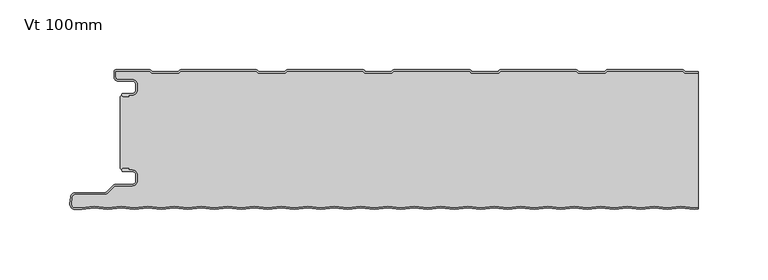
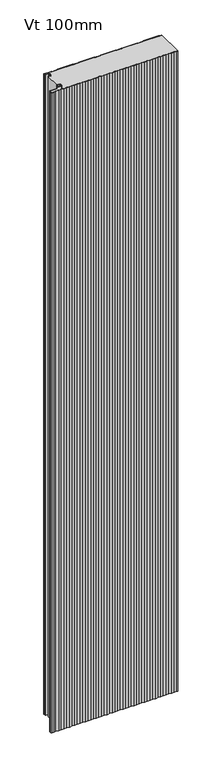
"""IFC4 building model written with IfcOpenShell, lengths in millimetres: plate geometry, KIP-MEX-KSS-1067-R19-CP-Vt-MR_SL : Vt 100mm."""

from ifc_helpers import new_model, si_unit, point, frame, frame_2d, origin, origin_with_axes, place, context, project, spatial, polyline, circle_curve, trimmed, segment, composite_curve, outline, extrude, source, transform, mapped, element, save
from ifc_brep_helpers import plane_surface, cylinder_surface, revolved_surface, advanced_brep


def vt_100mm_efa87503(model_context):
    return source(origin(), model_context, "Body", "SolidModel", [
        advanced_brep(
        [(-204.468691, -17.0015159, 2400.0), (-205.4686883, -18.0015191, 2400.0), (-204.468691, -19.0015105, 2400.0), (-200.4684874, -19.0015105, 2400.0), (-200.4684874, -18.0015159, 2400.0), (-197.7762776, -18.0015159, 2400.0), (-194.4762819, -14.7015202, 2400.0), (-194.4762819, -10.301529, 2400.0), (-197.7762774, -7.0015335, 2400.0), (-208.1962563, -7.0015335, 2400.0), (-209.9662505, -5.2315393, 2400.0), (-209.9662505, -0.9999916, 2400.0), (-185.4659738, -0.9999916, 2400.0), (-184.0803312, -2.2002307, 2400.0), (-164.7051649, -2.2002307, 2400.0), (-163.319532, -1.0, 2400.0), (-109.2661166, -1.0, 2400.0), (-107.8804836, -2.2002307, 2400.0), (-88.5053173, -2.2002307, 2400.0), (-87.1196844, -1.0, 2400.0), (-33.066269, -1.0, 2400.0), (-31.680636, -2.2002307, 2400.0), (-12.3054697, -2.2002307, 2400.0), (-10.9198368, -1.0, 2400.0), (43.1335786, -1.0, 2400.0), (44.5192116, -2.2002307, 2400.0), (63.8943779, -2.2002307, 2400.0), (65.2800108, -1.0, 2400.0), (119.3334262, -1.0, 2400.0), (120.7190592, -2.2002307, 2400.0), (140.0942255, -2.2002307, 2400.0), (141.4798584, -1.0, 2400.0), (195.5332738, -1.0, 2400.0), (196.9189068, -2.2002307, 2400.0), (206.4999998, -2.2002307, 2400.0), (206.4999998, -1.2002307, 2400.0), (197.2917872, -1.2002307, 2400.0), (196.3007396, -0.3417885, 2400.0), (195.3841227, 0.0, 2400.0), (141.6290096, 0.0, 2400.0), (140.7123927, -0.3417885, 2400.0), (139.7213451, -1.2002307, 2400.0), (121.0919396, -1.2002307, 2400.0), (120.100892, -0.3417885, 2400.0), (119.1842751, 0.0, 2400.0), (65.429162, 0.0, 2400.0), (64.5125451, -0.3417885, 2400.0), (63.5214975, -1.2002307, 2400.0), (44.892092, -1.2002307, 2400.0), (43.9010444, -0.3417885, 2400.0), (42.9844275, 0.0, 2400.0), (-10.7706856, 0.0, 2400.0), (-11.6873025, -0.3417885, 2400.0), (-12.6783501, -1.2002307, 2400.0), (-31.3077556, -1.2002307, 2400.0), (-32.2988032, -0.3417885, 2400.0), (-33.2154201, 0.0, 2400.0), (-86.9705332, 0.0, 2400.0), (-87.8871501, -0.3417885, 2400.0), (-88.8781977, -1.2002307, 2400.0), (-107.5076032, -1.2002307, 2400.0), (-108.4986508, -0.3417885, 2400.0), (-109.4152677, 0.0, 2400.0), (-163.1703808, 0.0, 2400.0), (-164.0869977, -0.3417885, 2400.0), (-165.0780453, -1.2002307, 2400.0), (-183.7074508, -1.2002307, 2400.0), (-184.6984984, -0.3417885, 2400.0), (-185.6152067, 0.0, 2400.0), (-209.5662543, 8.4e-06, 2400.0), (-210.9662505, -1.3999878, 2400.0), (-210.9662505, -5.2315393, 2400.0), (-208.1962563, -8.0015335, 2400.0), (-197.7762774, -8.0015335, 2400.0), (-195.4762819, -10.301529, 2400.0), (-195.4762819, -14.7015202, 2400.0), (-197.7762776, -17.0015159, 2400.0), (-204.468691, -17.0015159, 0.0), (-197.7762776, -17.0015159, 0.0), (-195.4762819, -14.7015202, 0.0), (-195.4762819, -10.301529, 0.0), (-197.7762774, -8.0015335, 0.0), (-208.1962563, -8.0015335, 0.0), (-210.9662505, -5.2315393, 0.0), (-210.9662505, -1.3999878, 0.0), (-209.5662543, 8.4e-06, 0.0), (-185.6151153, 8.4e-06, 0.0), (-184.6984984, -0.3417885, 0.0), (-183.7074508, -1.2002307, 0.0), (-165.0780453, -1.2002307, 0.0), (-164.0869977, -0.3417885, 0.0), (-163.1703808, 0.0, 0.0), (-109.4152677, 0.0, 0.0), (-108.4986508, -0.3417885, 0.0), (-107.5076032, -1.2002307, 0.0), (-88.8781977, -1.2002307, 0.0), (-87.8871501, -0.3417885, 0.0), (-86.9705332, 0.0, 0.0), (-33.2154201, 0.0, 0.0), (-32.2988032, -0.3417885, 0.0), (-31.3077556, -1.2002307, 0.0), (-12.6783501, -1.2002307, 0.0), (-11.6873025, -0.3417885, 0.0), (-10.7706856, 0.0, 0.0), (42.9844275, 0.0, 0.0), (43.9010444, -0.3417885, 0.0), (44.892092, -1.2002307, 0.0), (63.5214975, -1.2002307, 0.0), (64.5125451, -0.3417885, 0.0), (65.429162, 0.0, 0.0), (119.1842751, 0.0, 0.0), (120.100892, -0.3417885, 0.0), (121.0919396, -1.2002307, 0.0), (139.7213451, -1.2002307, 0.0), (140.7123927, -0.3417885, 0.0), (141.6290096, 0.0, 0.0), (195.3841227, 0.0, 0.0), (196.3007396, -0.3417885, 0.0), (197.2917872, -1.2002307, 0.0), (206.4999998, -1.2002307, 0.0), (206.4999998, -2.2002307, 0.0), (196.9189068, -2.2002307, 0.0), (195.5332738, -1.0, 0.0), (141.4798584, -1.0, 0.0), (140.0942255, -2.2002307, 0.0), (120.7190592, -2.2002307, 0.0), (119.3334262, -1.0, 0.0), (65.2800108, -1.0, 0.0), (63.8943779, -2.2002307, 0.0), (44.5192116, -2.2002307, 0.0), (43.1335786, -1.0, 0.0), (-10.9198368, -1.0, 0.0), (-12.3054697, -2.2002307, 0.0), (-31.680636, -2.2002307, 0.0), (-33.066269, -1.0, 0.0), (-87.1196844, -1.0, 0.0), (-88.5053173, -2.2002307, 0.0), (-107.8804836, -2.2002307, 0.0), (-109.2661166, -1.0, 0.0), (-163.319532, -1.0, 0.0), (-164.7051649, -2.2002307, 0.0), (-184.0803312, -2.2002307, 0.0), (-185.4659738, -0.9999916, 0.0), (-209.9662505, -0.9999916, 0.0), (-209.9662505, -5.2315393, 0.0), (-208.1962563, -7.0015335, 0.0), (-197.7762774, -7.0015335, 0.0), (-194.4762819, -10.301529, 0.0), (-194.4762819, -14.7015202, 0.0), (-197.7762776, -18.0015159, 0.0), (-200.4684874, -18.0015159, 0.0), (-200.4684874, -19.0015105, 0.0), (-204.468691, -19.0015105, 0.0), (-205.4686882, -18.0015192, 0.0)],
        [
            (0, 1, circle_curve(frame((-204.468691, -18.0015132, 2400.0), z_axis=(0.0, 0.0, 1.0), x_axis=(1.0, 0.0, 0.0)), 0.9999973)),
            (1, 2, circle_curve(frame((-204.468691, -18.0015133, 2400.0), z_axis=(0.0, 0.0, 1.0), x_axis=(1.0, 0.0, 0.0)), 0.9999972)),
            (2, 3),
            (3, 4),
            (4, 5),
            (5, 6, circle_curve(frame((-197.7762776, -14.7015202, 2400.0), z_axis=(0.0, 0.0, 1.0), x_axis=(1.0, 0.0, 0.0)), 3.2999957)),
            (6, 7),
            (7, 8, circle_curve(frame((-197.7762774, -10.301529, 2400.0), z_axis=(0.0, 0.0, 1.0), x_axis=(1.0, 0.0, 0.0)), 3.2999955)),
            (8, 9),
            (9, 10, circle_curve(frame((-208.1962563, -5.2315393, 2400.0), z_axis=(0.0, 0.0, -1.0), x_axis=(1.0, 0.0, 0.0)), 1.7699942)),
            (10, 11),
            (11, 12),
            (12, 13),
            (13, 14),
            (14, 15),
            (15, 16),
            (16, 17),
            (17, 18),
            (18, 19),
            (19, 20),
            (20, 21),
            (21, 22),
            (22, 23),
            (23, 24),
            (24, 25),
            (25, 26),
            (26, 27),
            (27, 28),
            (28, 29),
            (29, 30),
            (30, 31),
            (31, 32),
            (32, 33),
            (33, 34),
            (34, 35),
            (35, 36),
            (36, 37),
            (37, 38, circle_curve(frame((195.3841227, -1.3999972, 2400.0), z_axis=(0.0, 0.0, 1.0), x_axis=(1.0, 0.0, 0.0)), 1.3999972)),
            (38, 39),
            (39, 40, circle_curve(frame((141.6290096, -1.3999972, 2400.0), z_axis=(0.0, 0.0, 1.0), x_axis=(1.0, 0.0, 0.0)), 1.3999972)),
            (40, 41),
            (41, 42),
            (42, 43),
            (43, 44, circle_curve(frame((119.1842751, -1.3999972, 2400.0), z_axis=(0.0, 0.0, 1.0), x_axis=(1.0, 0.0, 0.0)), 1.3999972)),
            (44, 45),
            (45, 46, circle_curve(frame((65.429162, -1.3999972, 2400.0), z_axis=(0.0, 0.0, 1.0), x_axis=(1.0, 0.0, 0.0)), 1.3999972)),
            (46, 47),
            (47, 48),
            (48, 49),
            (49, 50, circle_curve(frame((42.9844275, -1.3999972, 2400.0), z_axis=(0.0, 0.0, 1.0), x_axis=(1.0, 0.0, 0.0)), 1.3999972)),
            (50, 51),
            (51, 52, circle_curve(frame((-10.7706856, -1.3999972, 2400.0), z_axis=(0.0, 0.0, 1.0), x_axis=(1.0, 0.0, 0.0)), 1.3999972)),
            (52, 53),
            (53, 54),
            (54, 55),
            (55, 56, circle_curve(frame((-33.2154201, -1.3999972, 2400.0), z_axis=(0.0, 0.0, 1.0), x_axis=(1.0, 0.0, 0.0)), 1.3999972)),
            (56, 57),
            (57, 58, circle_curve(frame((-86.9705332, -1.3999972, 2400.0), z_axis=(0.0, 0.0, 1.0), x_axis=(1.0, 0.0, 0.0)), 1.3999972)),
            (58, 59),
            (59, 60),
            (60, 61),
            (61, 62, circle_curve(frame((-109.4152677, -1.3999972, 2400.0), z_axis=(0.0, 0.0, 1.0), x_axis=(1.0, 0.0, 0.0)), 1.3999972)),
            (62, 63),
            (63, 64, circle_curve(frame((-163.1703808, -1.3999972, 2400.0), z_axis=(0.0, 0.0, 1.0), x_axis=(1.0, 0.0, 0.0)), 1.3999972)),
            (64, 65),
            (65, 66),
            (66, 67),
            (67, 68, circle_curve(frame((-185.6151153, -1.3999972, 2400.0), z_axis=(0.0, 0.0, 1.0), x_axis=(1.0, 0.0, 0.0)), 1.3999972)),
            (68, 69),
            (69, 70, circle_curve(frame((-209.5662543, -1.3999878, 2400.0), z_axis=(0.0, 0.0, 1.0), x_axis=(1.0, 0.0, 0.0)), 1.3999962)),
            (70, 71),
            (71, 72, circle_curve(frame((-208.1962563, -5.2315393, 2400.0), z_axis=(0.0, 0.0, 1.0), x_axis=(1.0, 0.0, 0.0)), 2.7699942)),
            (72, 73),
            (73, 74, circle_curve(frame((-197.7762774, -10.301529, 2400.0), z_axis=(0.0, 0.0, -1.0), x_axis=(1.0, 0.0, 0.0)), 2.2999955)),
            (74, 75),
            (75, 76, circle_curve(frame((-197.7762776, -14.7015202, 2400.0), z_axis=(0.0, 0.0, -1.0), x_axis=(1.0, 0.0, 0.0)), 2.2999957)),
            (76, 0),
            (77, 78),
            (78, 79, circle_curve(frame((-197.7762776, -14.7015202, 0.0), z_axis=(0.0, 0.0, 1.0), x_axis=(1.0, 0.0, 0.0)), 2.2999957)),
            (79, 80),
            (80, 81, circle_curve(frame((-197.7762774, -10.301529, 0.0), z_axis=(0.0, 0.0, 1.0), x_axis=(1.0, 0.0, 0.0)), 2.2999955)),
            (81, 82),
            (82, 83, circle_curve(frame((-208.1962563, -5.2315393, 0.0), z_axis=(0.0, 0.0, -1.0), x_axis=(1.0, 0.0, 0.0)), 2.7699942)),
            (83, 84),
            (84, 85, circle_curve(frame((-209.5662543, -1.3999878, 0.0), z_axis=(0.0, 0.0, -1.0), x_axis=(1.0, 0.0, 0.0)), 1.3999962)),
            (85, 86),
            (86, 87, circle_curve(frame((-185.6151153, -1.3999972, 0.0), z_axis=(0.0, 0.0, -1.0), x_axis=(1.0, 0.0, 0.0)), 1.3999972)),
            (87, 88),
            (88, 89),
            (89, 90),
            (90, 91, circle_curve(frame((-163.1703808, -1.3999972, 0.0), z_axis=(0.0, 0.0, -1.0), x_axis=(1.0, 0.0, 0.0)), 1.3999972)),
            (91, 92),
            (92, 93, circle_curve(frame((-109.4152677, -1.3999972, 0.0), z_axis=(0.0, 0.0, -1.0), x_axis=(1.0, 0.0, 0.0)), 1.3999972)),
            (93, 94),
            (94, 95),
            (95, 96),
            (96, 97, circle_curve(frame((-86.9705332, -1.3999972, 0.0), z_axis=(0.0, 0.0, -1.0), x_axis=(1.0, 0.0, 0.0)), 1.3999972)),
            (97, 98),
            (98, 99, circle_curve(frame((-33.2154201, -1.3999972, 0.0), z_axis=(0.0, 0.0, -1.0), x_axis=(1.0, 0.0, 0.0)), 1.3999972)),
            (99, 100),
            (100, 101),
            (101, 102),
            (102, 103, circle_curve(frame((-10.7706856, -1.3999972, 0.0), z_axis=(0.0, 0.0, -1.0), x_axis=(1.0, 0.0, 0.0)), 1.3999972)),
            (103, 104),
            (104, 105, circle_curve(frame((42.9844275, -1.3999972, 0.0), z_axis=(0.0, 0.0, -1.0), x_axis=(1.0, 0.0, 0.0)), 1.3999972)),
            (105, 106),
            (106, 107),
            (107, 108),
            (108, 109, circle_curve(frame((65.429162, -1.3999972, 0.0), z_axis=(0.0, 0.0, -1.0), x_axis=(1.0, 0.0, 0.0)), 1.3999972)),
            (109, 110),
            (110, 111, circle_curve(frame((119.1842751, -1.3999972, 0.0), z_axis=(0.0, 0.0, -1.0), x_axis=(1.0, 0.0, 0.0)), 1.3999972)),
            (111, 112),
            (112, 113),
            (113, 114),
            (114, 115, circle_curve(frame((141.6290096, -1.3999972, 0.0), z_axis=(0.0, 0.0, -1.0), x_axis=(1.0, 0.0, 0.0)), 1.3999972)),
            (115, 116),
            (116, 117, circle_curve(frame((195.3841227, -1.3999972, 0.0), z_axis=(0.0, 0.0, -1.0), x_axis=(1.0, 0.0, 0.0)), 1.3999972)),
            (117, 118),
            (118, 119),
            (119, 120),
            (120, 121),
            (121, 122),
            (122, 123),
            (123, 124),
            (124, 125),
            (125, 126),
            (126, 127),
            (127, 128),
            (128, 129),
            (129, 130),
            (130, 131),
            (131, 132),
            (132, 133),
            (133, 134),
            (134, 135),
            (135, 136),
            (136, 137),
            (137, 138),
            (138, 139),
            (139, 140),
            (140, 141),
            (141, 142),
            (142, 143),
            (143, 144),
            (144, 145, circle_curve(frame((-208.1962563, -5.2315393, 0.0), z_axis=(0.0, 0.0, 1.0), x_axis=(1.0, 0.0, 0.0)), 1.7699942)),
            (145, 146),
            (146, 147, circle_curve(frame((-197.7762774, -10.301529, 0.0), z_axis=(0.0, 0.0, -1.0), x_axis=(1.0, 0.0, 0.0)), 3.2999955)),
            (147, 148),
            (148, 149, circle_curve(frame((-197.7762776, -14.7015202, 0.0), z_axis=(0.0, 0.0, -1.0), x_axis=(1.0, 0.0, 0.0)), 3.2999957)),
            (149, 150),
            (150, 151),
            (151, 152),
            (152, 153, circle_curve(frame((-204.468691, -18.0015133, 0.0), z_axis=(0.0, 0.0, -1.0), x_axis=(1.0, 0.0, 0.0)), 0.9999972)),
            (153, 77, circle_curve(frame((-204.468691, -18.0015132, 0.0), z_axis=(0.0, 0.0, -1.0), x_axis=(1.0, 0.0, 0.0)), 0.9999973)),
            (76, 78),
            (77, 0),
            (75, 79),
            (74, 80),
            (73, 81),
            (72, 82),
            (71, 83),
            (70, 84),
            (69, 85),
            (68, 86),
            (67, 87),
            (66, 88),
            (65, 89),
            (64, 90),
            (63, 91),
            (62, 92),
            (61, 93),
            (60, 94),
            (59, 95),
            (58, 96),
            (57, 97),
            (56, 98),
            (55, 99),
            (54, 100),
            (53, 101),
            (52, 102),
            (51, 103),
            (50, 104),
            (49, 105),
            (48, 106),
            (47, 107),
            (46, 108),
            (45, 109),
            (44, 110),
            (43, 111),
            (42, 112),
            (41, 113),
            (40, 114),
            (39, 115),
            (38, 116),
            (37, 117),
            (36, 118),
            (35, 119),
            (120, 34),
            (33, 121),
            (32, 122),
            (31, 123),
            (30, 124),
            (29, 125),
            (28, 126),
            (27, 127),
            (26, 128),
            (25, 129),
            (24, 130),
            (23, 131),
            (22, 132),
            (21, 133),
            (20, 134),
            (19, 135),
            (18, 136),
            (17, 137),
            (16, 138),
            (15, 139),
            (14, 140),
            (13, 141),
            (12, 142),
            (11, 143),
            (10, 144),
            (9, 145),
            (8, 146),
            (7, 147),
            (6, 148),
            (5, 149),
            (4, 150),
            (3, 151),
            (2, 152),
            (1, 153),
        ],
        [
            plane_surface(frame((326.9000002, 0.0, 2400.0), z_axis=(0.0, 0.0, 1.0), x_axis=(0.0, 1.0, 0.0))),
            plane_surface(frame((326.9000002, 0.0, 0.0), z_axis=(0.0, 0.0, -1.0), x_axis=(0.0, 1.0, 0.0))),
            plane_surface(frame((-204.468691, -17.0015159, 2400.0), z_axis=(0.0, 1.0, 0.0), x_axis=(0.0, 0.0, -1.0))),
            revolved_surface(polyline([(-195.47628189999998, -14.7015202, 0.0), (-195.47628189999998, -14.7015202, 2400.0)]), (-197.7762776, -14.7015202, 2400.0), (0.0, 0.0, -1.0)),
            plane_surface(frame((-195.4762819, -14.7015202, 2400.0), z_axis=(-1.0, 0.0, 0.0), x_axis=(0.0, 0.0, -1.0))),
            revolved_surface(polyline([(-195.4762819, -10.301529, 0.0), (-195.4762819, -10.301529, 2400.0)]), (-197.7762774, -10.301529, 2400.0), (0.0, 0.0, -1.0)),
            plane_surface(frame((-197.7762774, -8.0015335, 2400.0), z_axis=(0.0, -1.0, 0.0), x_axis=(0.0, 0.0, -1.0))),
            cylinder_surface(frame((-208.1962563, -5.2315393, 2400.0), z_axis=(0.0, 0.0, 1.0), x_axis=(1.0, 0.0, 0.0)), 2.7699942),
            plane_surface(frame((-210.9662505, -5.2315393, 2400.0), z_axis=(-1.0, 0.0, 0.0), x_axis=(0.0, 0.0, -1.0))),
            cylinder_surface(frame((-209.5662543, -1.3999878, 2400.0), z_axis=(0.0, 0.0, 1.0), x_axis=(1.0, 0.0, 0.0)), 1.3999962),
            plane_surface(frame((-209.5662543, 8.4e-06, 2400.0), z_axis=(0.0, 1.0, 0.0), x_axis=(0.0, 0.0, -1.0))),
            cylinder_surface(frame((-185.6151153, -1.3999972, 2400.0), z_axis=(0.0, 0.0, 1.0), x_axis=(1.0, 0.0, 0.0)), 1.3999972),
            plane_surface(frame((-184.6984984, -0.3417885, 2400.0), z_axis=(0.6547276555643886, 0.755864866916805, 0.0), x_axis=(0.0, 0.0, -1.0))),
            plane_surface(frame((-174.3927481, -1.2002307, 2400.0), z_axis=(0.0, 1.0, 0.0), x_axis=(0.0, 0.0, -1.0))),
            plane_surface(frame((-165.0780453, -1.2002307, 2400.0), z_axis=(-0.6547276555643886, 0.755864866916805, 0.0), x_axis=(0.0, 0.0, -1.0))),
            cylinder_surface(frame((-163.1703808, -1.3999972, 2400.0), z_axis=(0.0, 0.0, 1.0), x_axis=(1.0, 0.0, 0.0)), 1.3999972),
            plane_surface(frame((-163.1703808, 0.0, 2400.0), z_axis=(0.0, 1.0, 0.0), x_axis=(0.0, 0.0, -1.0))),
            cylinder_surface(frame((-109.4152677, -1.3999972, 2400.0), z_axis=(0.0, 0.0, 1.0), x_axis=(1.0, 0.0, 0.0)), 1.3999972),
            plane_surface(frame((-108.4986508, -0.3417885, 2400.0), z_axis=(0.6547276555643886, 0.755864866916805, 0.0), x_axis=(0.0, 0.0, -1.0))),
            plane_surface(frame((-98.1929005, -1.2002307, 2400.0), z_axis=(0.0, 1.0, 0.0), x_axis=(0.0, 0.0, -1.0))),
            plane_surface(frame((-88.8781977, -1.2002307, 2400.0), z_axis=(-0.6547276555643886, 0.755864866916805, 0.0), x_axis=(0.0, 0.0, -1.0))),
            cylinder_surface(frame((-86.9705332, -1.3999972, 2400.0), z_axis=(0.0, 0.0, 1.0), x_axis=(1.0, 0.0, 0.0)), 1.3999972),
            plane_surface(frame((-86.9705332, 0.0, 2400.0), z_axis=(0.0, 1.0, 0.0), x_axis=(0.0, 0.0, -1.0))),
            cylinder_surface(frame((-33.2154201, -1.3999972, 2400.0), z_axis=(0.0, 0.0, 1.0), x_axis=(1.0, 0.0, 0.0)), 1.3999972),
            plane_surface(frame((-32.2988032, -0.3417885, 2400.0), z_axis=(0.6547276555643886, 0.755864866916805, 0.0), x_axis=(0.0, 0.0, -1.0))),
            plane_surface(frame((-21.9930529, -1.2002307, 2400.0), z_axis=(0.0, 1.0, 0.0), x_axis=(0.0, 0.0, -1.0))),
            plane_surface(frame((-12.6783501, -1.2002307, 2400.0), z_axis=(-0.6547276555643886, 0.755864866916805, 0.0), x_axis=(0.0, 0.0, -1.0))),
            cylinder_surface(frame((-10.7706856, -1.3999972, 2400.0), z_axis=(0.0, 0.0, 1.0), x_axis=(1.0, 0.0, 0.0)), 1.3999972),
            plane_surface(frame((-10.7706856, 0.0, 2400.0), z_axis=(0.0, 1.0, 0.0), x_axis=(0.0, 0.0, -1.0))),
            cylinder_surface(frame((42.9844275, -1.3999972, 2400.0), z_axis=(0.0, 0.0, 1.0), x_axis=(1.0, 0.0, 0.0)), 1.3999972),
            plane_surface(frame((43.9010444, -0.3417885, 2400.0), z_axis=(0.6547276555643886, 0.755864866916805, 0.0), x_axis=(0.0, 0.0, -1.0))),
            plane_surface(frame((54.2067947, -1.2002307, 2400.0), z_axis=(0.0, 1.0, 0.0), x_axis=(0.0, 0.0, -1.0))),
            plane_surface(frame((63.5214975, -1.2002307, 2400.0), z_axis=(-0.6547276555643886, 0.755864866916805, 0.0), x_axis=(0.0, 0.0, -1.0))),
            cylinder_surface(frame((65.429162, -1.3999972, 2400.0), z_axis=(0.0, 0.0, 1.0), x_axis=(1.0, 0.0, 0.0)), 1.3999972),
            plane_surface(frame((65.429162, 0.0, 2400.0), z_axis=(0.0, 1.0, 0.0), x_axis=(0.0, 0.0, -1.0))),
            cylinder_surface(frame((119.1842751, -1.3999972, 2400.0), z_axis=(0.0, 0.0, 1.0), x_axis=(1.0, 0.0, 0.0)), 1.3999972),
            plane_surface(frame((120.100892, -0.3417885, 2400.0), z_axis=(0.6547276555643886, 0.755864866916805, 0.0), x_axis=(0.0, 0.0, -1.0))),
            plane_surface(frame((130.4066423, -1.2002307, 2400.0), z_axis=(0.0, 1.0, 0.0), x_axis=(0.0, 0.0, -1.0))),
            plane_surface(frame((139.7213451, -1.2002307, 2400.0), z_axis=(-0.6547276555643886, 0.755864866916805, 0.0), x_axis=(0.0, 0.0, -1.0))),
            cylinder_surface(frame((141.6290096, -1.3999972, 2400.0), z_axis=(0.0, 0.0, 1.0), x_axis=(1.0, 0.0, 0.0)), 1.3999972),
            plane_surface(frame((141.6290096, 0.0, 2400.0), z_axis=(0.0, 1.0, 0.0), x_axis=(0.0, 0.0, -1.0))),
            cylinder_surface(frame((195.3841227, -1.3999972, 2400.0), z_axis=(0.0, 0.0, 1.0), x_axis=(1.0, 0.0, 0.0)), 1.3999972),
            plane_surface(frame((196.3007396, -0.3417885, 2400.0), z_axis=(0.6547276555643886, 0.755864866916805, 0.0), x_axis=(0.0, 0.0, -1.0))),
            plane_surface(frame((206.6064899, -1.2002307, 2400.0), z_axis=(0.0, 1.0, 0.0), x_axis=(0.0, 0.0, -1.0))),
            plane_surface(frame((216.2940731, -2.2002307, 2400.0), z_axis=(0.0, -1.0, 0.0), x_axis=(0.0, 0.0, -1.0))),
            plane_surface(frame((196.9189068, -2.2002307, 2400.0), z_axis=(-0.6547276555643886, -0.755864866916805, 0.0), x_axis=(0.0, 0.0, -1.0))),
            plane_surface(frame((195.5332738, -1.0, 2400.0), z_axis=(0.0, -1.0, 0.0), x_axis=(0.0, 0.0, -1.0))),
            plane_surface(frame((141.4798584, -1.0, 2400.0), z_axis=(0.6547276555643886, -0.755864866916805, 0.0), x_axis=(0.0, 0.0, -1.0))),
            plane_surface(frame((140.0942255, -2.2002307, 2400.0), z_axis=(0.0, -1.0, 0.0), x_axis=(0.0, 0.0, -1.0))),
            plane_surface(frame((120.7190592, -2.2002307, 2400.0), z_axis=(-0.6547276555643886, -0.755864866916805, 0.0), x_axis=(0.0, 0.0, -1.0))),
            plane_surface(frame((119.3334262, -1.0, 2400.0), z_axis=(0.0, -1.0, 0.0), x_axis=(0.0, 0.0, -1.0))),
            plane_surface(frame((65.2800108, -1.0, 2400.0), z_axis=(0.6547276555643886, -0.755864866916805, 0.0), x_axis=(0.0, 0.0, -1.0))),
            plane_surface(frame((63.8943779, -2.2002307, 2400.0), z_axis=(0.0, -1.0, 0.0), x_axis=(0.0, 0.0, -1.0))),
            plane_surface(frame((44.5192116, -2.2002307, 2400.0), z_axis=(-0.6547276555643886, -0.755864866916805, 0.0), x_axis=(0.0, 0.0, -1.0))),
            plane_surface(frame((43.1335786, -1.0, 2400.0), z_axis=(0.0, -1.0, 0.0), x_axis=(0.0, 0.0, -1.0))),
            plane_surface(frame((-10.9198368, -1.0, 2400.0), z_axis=(0.6547276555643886, -0.755864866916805, 0.0), x_axis=(0.0, 0.0, -1.0))),
            plane_surface(frame((-12.3054697, -2.2002307, 2400.0), z_axis=(0.0, -1.0, 0.0), x_axis=(0.0, 0.0, -1.0))),
            plane_surface(frame((-31.680636, -2.2002307, 2400.0), z_axis=(-0.6547276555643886, -0.755864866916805, 0.0), x_axis=(0.0, 0.0, -1.0))),
            plane_surface(frame((-33.066269, -1.0, 2400.0), z_axis=(0.0, -1.0, 0.0), x_axis=(0.0, 0.0, -1.0))),
            plane_surface(frame((-87.1196844, -1.0, 2400.0), z_axis=(0.6547276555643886, -0.755864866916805, 0.0), x_axis=(0.0, 0.0, -1.0))),
            plane_surface(frame((-88.5053173, -2.2002307, 2400.0), z_axis=(0.0, -1.0, 0.0), x_axis=(0.0, 0.0, -1.0))),
            plane_surface(frame((-107.8804836, -2.2002307, 2400.0), z_axis=(-0.6547276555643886, -0.755864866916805, 0.0), x_axis=(0.0, 0.0, -1.0))),
            plane_surface(frame((-109.2661166, -1.0, 2400.0), z_axis=(0.0, -1.0, 0.0), x_axis=(0.0, 0.0, -1.0))),
            plane_surface(frame((-163.319532, -1.0, 2400.0), z_axis=(0.6547276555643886, -0.755864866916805, 0.0), x_axis=(0.0, 0.0, -1.0))),
            plane_surface(frame((-164.7051649, -2.2002307, 2400.0), z_axis=(0.0, -1.0, 0.0), x_axis=(0.0, 0.0, -1.0))),
            plane_surface(frame((-184.0803312, -2.2002307, 2400.0), z_axis=(-0.6547276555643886, -0.755864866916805, 0.0), x_axis=(0.0, 0.0, -1.0))),
            plane_surface(frame((-185.4659738, -0.9999916, 2400.0), z_axis=(0.0, -1.0, 0.0), x_axis=(0.0, 0.0, -1.0))),
            plane_surface(frame((-209.9662505, -0.9999916, 2400.0), z_axis=(1.0, 0.0, 0.0), x_axis=(0.0, 0.0, -1.0))),
            revolved_surface(polyline([(-206.42626209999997, -5.2315393, 0.0), (-206.42626209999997, -5.2315393, 2400.0)]), (-208.1962563, -5.2315393, 2400.0), (0.0, 0.0, -1.0)),
            plane_surface(frame((-208.1962563, -7.0015335, 2400.0), z_axis=(0.0, 1.0, 0.0), x_axis=(0.0, 0.0, -1.0))),
            cylinder_surface(frame((-197.7762774, -10.301529, 2400.0), z_axis=(0.0, 0.0, 1.0), x_axis=(1.0, 0.0, 0.0)), 3.2999955),
            plane_surface(frame((-194.4762819, -10.301529, 2400.0), z_axis=(1.0, 0.0, 0.0), x_axis=(0.0, 0.0, -1.0))),
            cylinder_surface(frame((-197.7762776, -14.7015202, 2400.0), z_axis=(0.0, 0.0, 1.0), x_axis=(1.0, 0.0, 0.0)), 3.2999957),
            plane_surface(frame((-197.7762776, -18.0015159, 2400.0), z_axis=(0.0, -1.0, 0.0), x_axis=(0.0, 0.0, -1.0))),
            plane_surface(frame((-200.4684874, -18.0015159, 2400.0), z_axis=(1.0, 0.0, 0.0), x_axis=(0.0, 0.0, -1.0))),
            plane_surface(frame((-200.4684874, -19.0015105, 2400.0), z_axis=(0.0, -1.0, 0.0), x_axis=(0.0, 0.0, -1.0))),
            cylinder_surface(frame((-204.468691, -18.0015133, 2400.0), z_axis=(0.0, 0.0, 1.0), x_axis=(1.0, 0.0, 0.0)), 0.9999972),
            cylinder_surface(frame((-204.468691, -18.0015132, 2400.0), z_axis=(0.0, 0.0, 1.0), x_axis=(1.0, 0.0, 0.0)), 0.9999973),
            plane_surface(frame((206.4999998, -110.0, 2400.0), z_axis=(1.0, 0.0, 0.0), x_axis=(0.0, 0.0, -1.0))),
        ],
        [
            (0, [[1, 2, 3, 4, 5, 6, 7, 8, 9, 10, 11, 12, 13, 14, 15, 16, 17, 18, 19, 20, 21, 22, 23, 24, 25, 26, 27, 28, 29, 30, 31, 32, 33, 34, 35, 36, 37, 38, 39, 40, 41, 42, 43, 44, 45, 46, 47, 48, 49, 50, 51, 52, 53, 54, 55, 56, 57, 58, 59, 60, 61, 62, 63, 64, 65, 66, 67, 68, 69, 70, 71, 72, 73, 74, 75, 76, 77]]),
            (1, [[78, 79, 80, 81, 82, 83, 84, 85, 86, 87, 88, 89, 90, 91, 92, 93, 94, 95, 96, 97, 98, 99, 100, 101, 102, 103, 104, 105, 106, 107, 108, 109, 110, 111, 112, 113, 114, 115, 116, 117, 118, 119, 120, 121, 122, 123, 124, 125, 126, 127, 128, 129, 130, 131, 132, 133, 134, 135, 136, 137, 138, 139, 140, 141, 142, 143, 144, 145, 146, 147, 148, 149, 150, 151, 152, 153, 154]]),
            (2, [[155, -78, 156, -77]]),
            (3, [[157, -79, -155, -76]]),
            (4, [[158, -80, -157, -75]]),
            (5, [[159, -81, -158, -74]]),
            (6, [[160, -82, -159, -73]]),
            (7, [[161, -83, -160, -72]]),
            (8, [[162, -84, -161, -71]]),
            (9, [[163, -85, -162, -70]]),
            (10, [[164, -86, -163, -69]]),
            (11, [[165, -87, -164, -68]]),
            (12, [[166, -88, -165, -67]]),
            (13, [[167, -89, -166, -66]]),
            (14, [[168, -90, -167, -65]]),
            (15, [[169, -91, -168, -64]]),
            (16, [[170, -92, -169, -63]]),
            (17, [[171, -93, -170, -62]]),
            (18, [[172, -94, -171, -61]]),
            (19, [[173, -95, -172, -60]]),
            (20, [[174, -96, -173, -59]]),
            (21, [[175, -97, -174, -58]]),
            (22, [[176, -98, -175, -57]]),
            (23, [[177, -99, -176, -56]]),
            (24, [[178, -100, -177, -55]]),
            (25, [[179, -101, -178, -54]]),
            (26, [[180, -102, -179, -53]]),
            (27, [[181, -103, -180, -52]]),
            (28, [[182, -104, -181, -51]]),
            (29, [[183, -105, -182, -50]]),
            (30, [[184, -106, -183, -49]]),
            (31, [[185, -107, -184, -48]]),
            (32, [[186, -108, -185, -47]]),
            (33, [[187, -109, -186, -46]]),
            (34, [[188, -110, -187, -45]]),
            (35, [[189, -111, -188, -44]]),
            (36, [[190, -112, -189, -43]]),
            (37, [[191, -113, -190, -42]]),
            (38, [[192, -114, -191, -41]]),
            (39, [[193, -115, -192, -40]]),
            (40, [[194, -116, -193, -39]]),
            (41, [[195, -117, -194, -38]]),
            (42, [[196, -118, -195, -37]]),
            (43, [[-36, 197, -119, -196]]),
            (44, [[-121, 198, -34, 199]]),
            (45, [[200, -122, -199, -33]]),
            (46, [[201, -123, -200, -32]]),
            (47, [[202, -124, -201, -31]]),
            (48, [[203, -125, -202, -30]]),
            (49, [[204, -126, -203, -29]]),
            (50, [[205, -127, -204, -28]]),
            (51, [[206, -128, -205, -27]]),
            (52, [[207, -129, -206, -26]]),
            (53, [[208, -130, -207, -25]]),
            (54, [[209, -131, -208, -24]]),
            (55, [[210, -132, -209, -23]]),
            (56, [[211, -133, -210, -22]]),
            (57, [[212, -134, -211, -21]]),
            (58, [[213, -135, -212, -20]]),
            (59, [[214, -136, -213, -19]]),
            (60, [[215, -137, -214, -18]]),
            (61, [[216, -138, -215, -17]]),
            (62, [[217, -139, -216, -16]]),
            (63, [[218, -140, -217, -15]]),
            (64, [[219, -141, -218, -14]]),
            (65, [[220, -142, -219, -13]]),
            (66, [[221, -143, -220, -12]]),
            (67, [[222, -144, -221, -11]]),
            (68, [[223, -145, -222, -10]]),
            (69, [[224, -146, -223, -9]]),
            (70, [[225, -147, -224, -8]]),
            (71, [[226, -148, -225, -7]]),
            (72, [[227, -149, -226, -6]]),
            (73, [[228, -150, -227, -5]]),
            (74, [[229, -151, -228, -4]]),
            (75, [[230, -152, -229, -3]]),
            (76, [[231, -153, -230, -2]]),
            (77, [[-156, -154, -231, -1]]),
            (78, [[-198, -120, -197, -35]]),
        ],
    ),
        extrude(outline(composite_curve([segment(polyline([(-215.4442791, -100.0), (-224.96926, -98.9411849), (-234.2447635, -99.9722676), (-238.9498353, -99.9722676)]), True, "CONTINUOUS"), segment(trimmed(circle_curve(frame_2d((-238.9521993, -96.4022755)), 3.5699929), [point((-238.9498353, -99.9722676))], [point((-242.5086073, -96.0911302))], False, "CARTESIAN"), True, "CONTINUOUS"), segment(polyline([(-242.5086073, -96.0911302), (-242.0690674, -91.0671659)]), True, "CONTINUOUS"), segment(trimmed(circle_curve(frame_2d((-238.4198391, -91.677967)), 3.6999926), [point((-242.0690674, -91.0671659))], [point((-238.4198391, -87.9779744))], False, "CARTESIAN"), True, "CONTINUOUS"), segment(polyline([(-238.4198391, -87.9779744), (-217.2773995, -87.9779744)]), True, "CONTINUOUS"), segment(trimmed(circle_curve(frame_2d((-217.2773995, -86.677977)), 1.2999974), [point((-217.2773995, -87.9779744))], [point((-216.3581626, -87.597214))], True, "CARTESIAN"), True, "CONTINUOUS"), segment(polyline([(-216.3581626, -87.597214), (-211.5297451, -82.7687965)]), True, "CONTINUOUS"), segment(trimmed(circle_curve(frame_2d((-209.6205606, -84.677981)), 2.6999946), [point((-211.5297451, -82.7687965))], [point((-209.6205606, -81.9779864))], False, "CARTESIAN"), True, "CONTINUOUS"), segment(polyline([(-209.6205606, -81.9779864), (-197.8096715, -81.9779864)]), True, "CONTINUOUS"), segment(trimmed(circle_curve(frame_2d((-197.8096715, -79.6279911)), 2.3499953), [point((-197.8096715, -81.9779864))], [point((-195.4596762, -79.6279911))], True, "CARTESIAN"), True, "CONTINUOUS"), segment(polyline([(-195.4596762, -79.6279911), (-195.4596762, -75.2279999)]), True, "CONTINUOUS"), segment(trimmed(circle_curve(frame_2d((-197.8096715, -75.2279999)), 2.3499953), [point((-195.4596762, -75.2279999))], [point((-197.8096715, -72.8780046))], True, "CARTESIAN"), True, "CONTINUOUS"), segment(polyline([(-197.8096715, -72.8780046), (-204.3289777, -72.8780046)]), True, "CONTINUOUS"), segment(trimmed(circle_curve(frame_2d((-204.2686906, -71.6795224)), 1.1999976), [point((-204.3289777, -72.8780046))], [point((-205.4682903, -71.6486225))], False, "CARTESIAN"), True, "CONTINUOUS"), segment(trimmed(circle_curve(frame_2d((-204.2686906, -71.6795224)), 1.1999976), [point((-205.4682903, -71.6486225))], [point((-204.267176, -70.4795257))], False, "CARTESIAN"), True, "CONTINUOUS"), segment(polyline([(-204.267176, -70.4795257), (-200.5087826, -70.4795257), (-200.5087826, -71.8780046), (-197.8096715, -71.8780046)]), True, "CONTINUOUS"), segment(trimmed(circle_curve(frame_2d((-197.8096715, -75.2279999)), 3.3499953), [point((-197.8096715, -71.8780046))], [point((-194.4596762, -75.2279999))], False, "CARTESIAN"), True, "CONTINUOUS"), segment(polyline([(-194.4596762, -75.2279999), (-194.4596762, -79.6279911)]), True, "CONTINUOUS"), segment(trimmed(circle_curve(frame_2d((-197.8096715, -79.6279911)), 3.3499953), [point((-194.4596762, -79.6279911))], [point((-197.8096715, -82.9779864))], False, "CARTESIAN"), True, "CONTINUOUS"), segment(polyline([(-197.8096715, -82.9779864), (-209.6205606, -82.9779864)]), True, "CONTINUOUS"), segment(trimmed(circle_curve(frame_2d((-209.6205606, -84.677981)), 1.6999946), [point((-209.6205606, -82.9779864))], [point((-210.8226383, -83.4759033))], True, "CARTESIAN"), True, "CONTINUOUS"), segment(polyline([(-210.8226383, -83.4759033), (-215.6510558, -88.3043208)]), True, "CONTINUOUS"), segment(trimmed(circle_curve(frame_2d((-217.2773995, -86.677977)), 2.2999974), [point((-215.6510558, -88.3043208))], [point((-217.2773995, -88.9779744))], False, "CARTESIAN"), True, "CONTINUOUS"), segment(polyline([(-217.2773995, -88.9779744), (-238.4198391, -88.9779744)]), True, "CONTINUOUS"), segment(trimmed(circle_curve(frame_2d((-238.4198391, -91.677967)), 2.6999926), [point((-238.4198391, -88.9779744))], [point((-241.0765683, -91.1965632))], True, "CARTESIAN"), True, "CONTINUOUS"), segment(polyline([(-241.0765683, -91.1965632), (-241.5124126, -96.1782859)]), True, "CONTINUOUS"), segment(trimmed(circle_curve(frame_2d((-238.9521993, -96.4022755)), 2.5699929), [point((-241.5124126, -96.1782859))], [point((-238.9501935, -98.9722676))], True, "CARTESIAN"), True, "CONTINUOUS"), segment(polyline([(-238.9501935, -98.9722676), (-234.3001738, -98.9722676), (-224.96926, -97.9350254), (-215.4442791, -98.9938405), (-205.9192981, -97.9350254), (-196.3943172, -98.9938405), (-186.8693362, -97.9350254), (-177.3443553, -98.9938405), (-167.8193743, -97.9350254), (-158.2943934, -98.9938405), (-148.7694124, -97.9350254), (-139.2444315, -98.9938405), (-129.7194505, -97.9350254), (-120.1944696, -98.9938405), (-110.6694886, -97.9350254), (-101.1445077, -98.9938405), (-91.6195267, -97.9350254), (-82.0945458, -98.9938405), (-72.5695648, -97.9350254), (-63.0445839, -98.9938405), (-53.5196029, -97.9350254), (-43.994622, -98.9938405), (-34.469641, -97.9350254), (-24.9446601, -98.9938405), (-15.4196791, -97.9350254), (-5.8946982, -98.9938405), (3.6302828, -97.9350254), (13.1552637, -98.9938405), (22.6802447, -97.9350254), (32.2052256, -98.9938405), (41.7302066, -97.9350254), (51.2551875, -98.9938405), (60.7801685, -97.9350254), (70.3051494, -98.9938405), (79.8301304, -97.9350254), (89.3551113, -98.9938405), (98.8800923, -97.9350254), (108.4050732, -98.9938405), (117.9300542, -97.9350254), (127.4550351, -98.9938405), (136.9800161, -97.9350254), (146.504997, -98.9938405), (156.029978, -97.9350254), (165.5549589, -98.9938405), (175.0799399, -97.9350254), (184.6049208, -98.9938405), (194.1299018, -97.9350254), (203.6548827, -98.9938405), (206.4999998, -98.6775718), (206.4999998, -99.6837313), (203.6548827, -100.0), (194.1299018, -98.9411849), (184.6049208, -100.0), (175.0799399, -98.9411849), (165.5549589, -100.0), (156.029978, -98.9411849), (146.504997, -100.0), (136.9800161, -98.9411849), (127.4550351, -100.0), (117.9300542, -98.9411849), (108.4050732, -100.0), (98.8800923, -98.9411849), (89.3551113, -100.0), (79.8301304, -98.9411849), (70.3051494, -100.0), (60.7801685, -98.9411849), (51.2551875, -100.0), (41.7302066, -98.9411849), (32.2052256, -100.0), (22.6802447, -98.9411849), (13.1552637, -100.0), (3.6302828, -98.9411849), (-5.8946982, -100.0), (-15.4196791, -98.9411849), (-24.9446601, -100.0), (-34.469641, -98.9411849), (-43.994622, -100.0), (-53.5196029, -98.9411849), (-63.0445839, -100.0), (-72.5695648, -98.9411849), (-82.0945458, -100.0), (-91.6195267, -98.9411849), (-101.1445077, -100.0), (-110.6694886, -98.9411849), (-120.1944696, -100.0), (-129.7194505, -98.9411849), (-139.2444315, -100.0), (-148.7694124, -98.9411849), (-158.2943934, -100.0), (-167.8193743, -98.9411849), (-177.3443553, -100.0), (-186.8693362, -98.9411849), (-196.3943172, -100.0), (-205.9192981, -98.9411849), (-215.4442791, -100.0)]), True, "CONTINUOUS")], self_intersect=False)), origin_with_axes(), (0.0, 0.0, 1.0), 2400.0),
        extrude(outline(composite_curve([segment(trimmed(circle_curve(frame_2d((-197.8096715, -75.2341594)), 3.3499953), [point((-194.4596762, -75.2341594))], [point((-197.8096715, -71.8841641))], True, "CARTESIAN"), True, "CONTINUOUS"), segment(polyline([(-197.8096715, -71.8841641), (-200.5087826, -71.8841641), (-200.5087826, -70.4856852), (-204.267176, -70.4856852)]), True, "CONTINUOUS"), segment(trimmed(circle_curve(frame_2d((-204.2686906, -71.6856819)), 1.1999976), [point((-204.267176, -70.4856852))], [point((-205.4682903, -71.654782))], True, "CARTESIAN"), True, "CONTINUOUS"), segment(polyline([(-205.4682903, -71.654782), (-206.4999998, -70.6230724), (-206.4999998, -19.0328308), (-205.4686882, -18.0015192)]), True, "CONTINUOUS"), segment(trimmed(circle_curve(frame_2d((-204.468691, -18.0015133)), 0.9999972), [point((-205.4686882, -18.0015192))], [point((-204.468691, -19.0015105))], True, "CARTESIAN"), True, "CONTINUOUS"), segment(polyline([(-204.468691, -19.0015105), (-200.4684873, -19.0015105), (-200.4684873, -18.0015159), (-197.7762775, -18.0015159)]), True, "CONTINUOUS"), segment(trimmed(circle_curve(frame_2d((-197.7762775, -14.7015202)), 3.2999957), [point((-197.7762775, -18.0015159))], [point((-194.4762818, -14.7015202))], True, "CARTESIAN"), True, "CONTINUOUS"), segment(polyline([(-194.4762818, -14.7015202), (-194.4762818, -10.301529)]), True, "CONTINUOUS"), segment(trimmed(circle_curve(frame_2d((-197.7762777, -10.301529)), 3.2999959), [point((-194.4762818, -10.301529))], [point((-197.7762777, -7.0015331))], True, "CARTESIAN"), True, "CONTINUOUS"), segment(polyline([(-197.7762777, -7.0015331), (-208.1962562, -7.0015331)]), True, "CONTINUOUS"), segment(trimmed(circle_curve(frame_2d((-208.1962562, -5.2315389)), 1.7699942), [point((-208.1962562, -7.0015331))], [point((-209.9662504, -5.2315389))], False, "CARTESIAN"), True, "CONTINUOUS"), segment(polyline([(-209.9662504, -5.2315389), (-209.9662504, -0.9999916), (-185.4659738, -0.9999916), (-184.0803312, -2.2002307), (-164.7051649, -2.2002307), (-163.3195319, -1.0), (-109.2661165, -1.0), (-107.8804836, -2.2002307), (-88.5053173, -2.2002307), (-87.1196843, -1.0), (-33.0662689, -1.0), (-31.680636, -2.2002307), (-12.3054697, -2.2002307), (-10.9198367, -1.0), (43.1335787, -1.0), (44.5192116, -2.2002307), (63.8943779, -2.2002307), (65.2800109, -1.0), (119.3334263, -1.0), (120.7190592, -2.2002307), (140.0942255, -2.2002307), (141.4798585, -1.0), (195.5332739, -1.0), (196.9189068, -2.2002307), (206.4999998, -2.2002307), (206.4999998, -98.6837313), (203.6548827, -99.0), (194.1299018, -97.9411849), (184.6049208, -99.0), (175.0799399, -97.9411849), (165.5549589, -99.0), (156.029978, -97.9411849), (146.504997, -99.0), (136.9800161, -97.9411849), (127.4550351, -99.0), (117.9300542, -97.9411849), (108.4050732, -99.0), (98.8800923, -97.9411849), (89.3551113, -99.0), (79.8301304, -97.9411849), (70.3051494, -99.0), (60.7801685, -97.9411849), (51.2551875, -99.0), (41.7302066, -97.9411849), (32.2052256, -99.0), (22.6802447, -97.9411849), (13.1552637, -99.0), (3.6302828, -97.9411849), (-5.8946982, -99.0), (-15.4196791, -97.9411849), (-24.9446601, -99.0), (-34.469641, -97.9411849), (-43.994622, -99.0), (-53.5196029, -97.9411849), (-63.0445839, -99.0), (-72.5695648, -97.9411849), (-82.0945458, -99.0), (-91.6195267, -97.9411849), (-101.1445077, -99.0), (-110.6694886, -97.9411849), (-120.1944696, -99.0), (-129.7194505, -97.9411849), (-139.2444315, -99.0), (-148.7694124, -97.9411849), (-158.2943934, -99.0), (-167.8193743, -97.9411849), (-177.3443553, -99.0), (-186.8693362, -97.9411849), (-196.3943172, -99.0), (-205.9192981, -97.9411849), (-215.4442791, -99.0), (-224.96926, -97.9411849), (-234.3001738, -98.9784271), (-238.9501935, -98.9784271)]), True, "CONTINUOUS"), segment(trimmed(circle_curve(frame_2d((-238.9521993, -96.4084351)), 2.5699929), [point((-238.9501935, -98.9784271))], [point((-241.5124126, -96.1844454))], False, "CARTESIAN"), True, "CONTINUOUS"), segment(polyline([(-241.5124126, -96.1844454), (-241.0765683, -91.2027227)]), True, "CONTINUOUS"), segment(trimmed(circle_curve(frame_2d((-238.4198391, -91.6841265)), 2.6999926), [point((-241.0765683, -91.2027227))], [point((-238.4198391, -88.9841339))], False, "CARTESIAN"), True, "CONTINUOUS"), segment(polyline([(-238.4198391, -88.9841339), (-217.2773995, -88.9841339)]), True, "CONTINUOUS"), segment(trimmed(circle_curve(frame_2d((-217.2773995, -86.6841365)), 2.2999974), [point((-217.2773995, -88.9841339))], [point((-215.6510558, -88.3104803))], True, "CARTESIAN"), True, "CONTINUOUS"), segment(polyline([(-215.6510558, -88.3104803), (-210.8226383, -83.4820628)]), True, "CONTINUOUS"), segment(trimmed(circle_curve(frame_2d((-209.6205606, -84.6841405)), 1.6999946), [point((-210.8226383, -83.4820628))], [point((-209.6205606, -82.9841459))], False, "CARTESIAN"), True, "CONTINUOUS"), segment(polyline([(-209.6205606, -82.9841459), (-197.8096715, -82.9841459)]), True, "CONTINUOUS"), segment(trimmed(circle_curve(frame_2d((-197.8096715, -79.6341506)), 3.3499953), [point((-197.8096715, -82.9841459))], [point((-194.4596762, -79.6341506))], True, "CARTESIAN"), True, "CONTINUOUS"), segment(polyline([(-194.4596762, -79.6341506), (-194.4596762, -75.2341594)]), True, "CONTINUOUS")], self_intersect=False)), origin_with_axes(), (0.0, 0.0, 1.0), 2400.0),
    ])


if __name__ == "__main__":
    model = new_model("IFC4")
    model_context = context("Model", 3, world=origin())
    ifc_project = project(units=[si_unit("LENGTHUNIT", "METRE", prefix="MILLI")], contexts=[model_context])
    site = spatial("IfcSite", under=ifc_project)
    building = spatial("IfcBuilding", under=site)
    placement = place(None, origin())
    vt_100mm_shape = vt_100mm_efa87503(model_context)
    element("IfcPlate", 1, ObjectType="KIP-MEX-KSS-1067-R19-CP-Vt-MR_SL : Vt 100mm", at=placement, inside=building, context=model_context, shape_type="MappedRepresentation", body=[
        mapped(vt_100mm_shape, transform((0.0, 0.0, 0.0), x_axis=(1.0, 0.0, 0.0), y_axis=(0.0, 1.0, 0.0), z_axis=(0.0, 0.0, 1.0))),
    ])
    save(model, "model.ifc")
